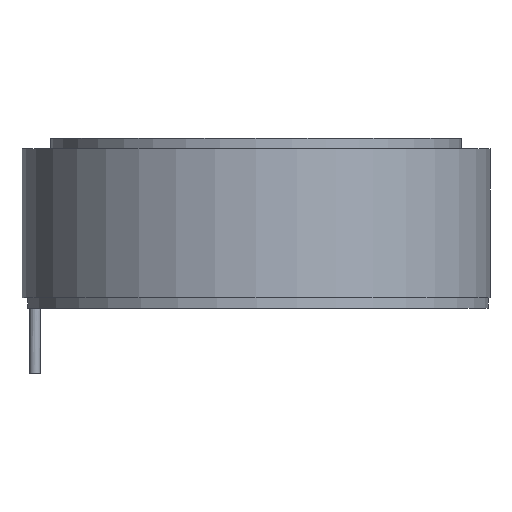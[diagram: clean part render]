
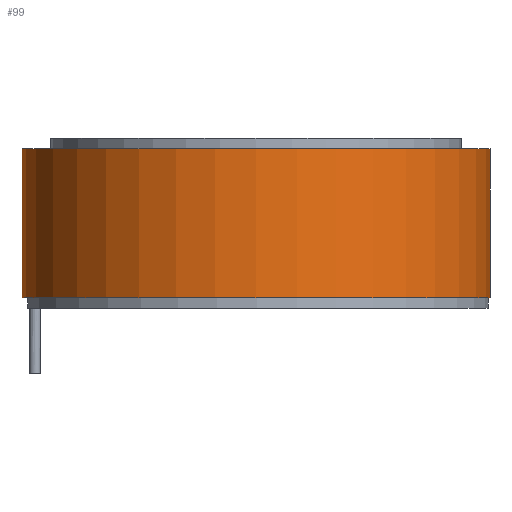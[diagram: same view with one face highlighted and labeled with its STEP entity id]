
A CAD part, front view. The second image highlights one B-rep face of the part: STEP entity #99.
In plain terms, the highlighted cylindrical face has radius 33 mm (diameter 66 mm), a full revolution.
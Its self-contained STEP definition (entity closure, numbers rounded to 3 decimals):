
#48=CYLINDRICAL_SURFACE('',#742,33.);
#99=ADVANCED_FACE('',(#204,#205),#48,.T.);
#204=FACE_BOUND('',#277,.T.);
#205=FACE_BOUND('',#278,.T.);
#277=EDGE_LOOP('',(#426));
#278=EDGE_LOOP('',(#427));
#426=ORIENTED_EDGE('',*,*,#608,.F.);
#427=ORIENTED_EDGE('',*,*,#632,.T.);
#546=VERTEX_POINT('',#1029);
#569=VERTEX_POINT('',#1332);
#608=EDGE_CURVE('',#546,#546,#679,.T.);
#632=EDGE_CURVE('',#569,#569,#691,.T.);
#679=CIRCLE('',#724,33.);
#691=CIRCLE('',#740,33.);
#724=AXIS2_PLACEMENT_3D('',#1028,#822,#823);
#740=AXIS2_PLACEMENT_3D('',#1331,#858,#859);
#742=AXIS2_PLACEMENT_3D('',#1334,#862,#863);
#822=DIRECTION('',(0.,0.,-1.));
#823=DIRECTION('',(-1.,0.,0.));
#858=DIRECTION('',(0.,0.,-1.));
#859=DIRECTION('',(-1.,0.,0.));
#862=DIRECTION('',(0.,0.,-1.));
#863=DIRECTION('',(-1.,0.,0.));
#1028=CARTESIAN_POINT('',(0.,0.,-22.5));
#1029=CARTESIAN_POINT('',(-33.,0.,-22.5));
#1331=CARTESIAN_POINT('',(0.,0.,-1.5));
#1332=CARTESIAN_POINT('',(-33.,0.,-1.5));
#1334=CARTESIAN_POINT('',(0.,0.,-1.5));
